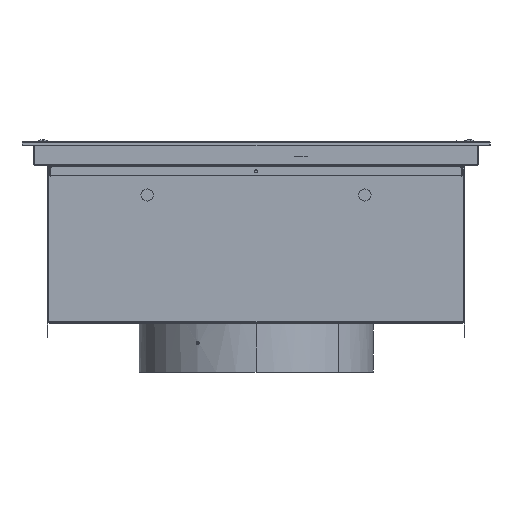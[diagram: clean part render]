
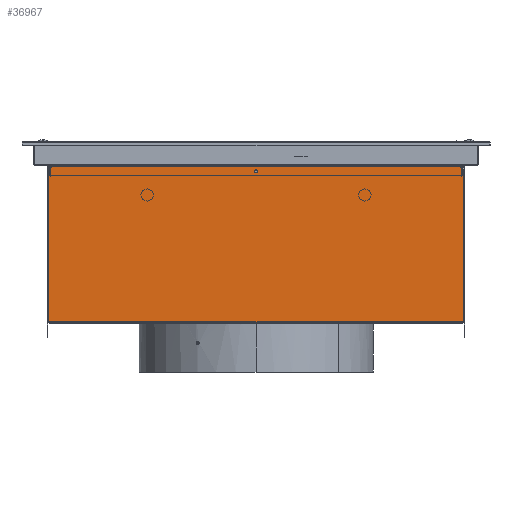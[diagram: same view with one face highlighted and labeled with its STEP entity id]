
A CAD part, left-side view. The second image highlights one B-rep face of the part: STEP entity #36967.
In plain terms, the highlighted planar face has unit normal (-1, 0, 0).
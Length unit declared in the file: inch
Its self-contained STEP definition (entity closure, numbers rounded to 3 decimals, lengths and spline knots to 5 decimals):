
#1712 = LINE ( 'NONE', #22037, #48766 ) ;
#1896 = CIRCLE ( 'NONE', #24910, 0.015 ) ;
#2207 = LINE ( 'NONE', #6310, #39869 ) ;
#2336 = FACE_OUTER_BOUND ( 'NONE', #14563, .T. ) ;
#2477 = VECTOR ( 'NONE', #42718, 39.37008 ) ;
#2786 = ORIENTED_EDGE ( 'NONE', *, *, #32716, .T. ) ;
#3860 = DIRECTION ( 'NONE',  ( 0., -1., 0. ) ) ;
#4125 = DIRECTION ( 'NONE',  ( 1., 0., 0. ) ) ;
#4232 = EDGE_CURVE ( 'NONE', #23449, #41630, #46624, .T. ) ;
#5059 = AXIS2_PLACEMENT_3D ( 'NONE', #27204, #15392, #14857 ) ;
#6310 = CARTESIAN_POINT ( 'NONE',  ( -10.56225, -0.075, -1.5796 ) ) ;
#7031 = AXIS2_PLACEMENT_3D ( 'NONE', #7735, #27319, #46881 ) ;
#7071 = CIRCLE ( 'NONE', #46517, 0.075 ) ;
#7735 = CARTESIAN_POINT ( 'NONE',  ( -10.56225, 0., -1.091 ) ) ;
#8916 = VERTEX_POINT ( 'NONE', #26608 ) ;
#9068 = EDGE_CURVE ( 'NONE', #33599, #21982, #29170, .T. ) ;
#9140 = EDGE_CURVE ( 'NONE', #22191, #41630, #16105, .T. ) ;
#9278 = EDGE_CURVE ( 'NONE', #49000, #10778, #7071, .T. ) ;
#10051 = CARTESIAN_POINT ( 'NONE',  ( -10.56225, -10.52225, -9.137 ) ) ;
#10315 = FACE_BOUND ( 'NONE', #46376, .T. ) ;
#10542 = CARTESIAN_POINT ( 'NONE',  ( -10.56225, -10.51786, -1.44861 ) ) ;
#10778 = VERTEX_POINT ( 'NONE', #49237 ) ;
#11020 = VECTOR ( 'NONE', #3860, 39.37008 ) ;
#11243 = AXIS2_PLACEMENT_3D ( 'NONE', #28960, #40810, #33752 ) ;
#11606 = EDGE_CURVE ( 'NONE', #23449, #33599, #47006, .T. ) ;
#11730 = VERTEX_POINT ( 'NONE', #50381 ) ;
#12247 = CARTESIAN_POINT ( 'NONE',  ( -10.56225, 0.015, -1.203 ) ) ;
#12311 = VERTEX_POINT ( 'NONE', #10542 ) ;
#12585 = DIRECTION ( 'NONE',  ( 0., 1., 0. ) ) ;
#12903 = VERTEX_POINT ( 'NONE', #50662 ) ;
#13627 = VERTEX_POINT ( 'NONE', #26849 ) ;
#14051 = DIRECTION ( 'NONE',  ( 0., 0., -1. ) ) ;
#14306 = CARTESIAN_POINT ( 'NONE',  ( -10.56225, -10.50725, -1.45921 ) ) ;
#14563 = EDGE_LOOP ( 'NONE', ( #18804, #42535, #20952, #22978, #49764, #39685, #32574, #38050, #23955, #19294, #2786, #15159, #35303 ) ) ;
#14857 = DIRECTION ( 'NONE',  ( 0., 0., -1. ) ) ;
#15159 = ORIENTED_EDGE ( 'NONE', *, *, #43726, .T. ) ;
#15392 = DIRECTION ( 'NONE',  ( -1., 0., 0. ) ) ;
#15529 = CARTESIAN_POINT ( 'NONE',  ( -10.56225, -10.52225, -9.137 ) ) ;
#15685 = CARTESIAN_POINT ( 'NONE',  ( -10.56225, -10.52225, -1.453 ) ) ;
#15776 = DIRECTION ( 'NONE',  ( 0., 0., 1. ) ) ;
#16105 = CIRCLE ( 'NONE', #7031, 0.113 ) ;
#16452 = CARTESIAN_POINT ( 'NONE',  ( -10.56225, 10.56225, -9.137 ) ) ;
#16482 = DIRECTION ( 'NONE',  ( 0., -1., 0. ) ) ;
#16493 = CARTESIAN_POINT ( 'NONE',  ( -10.56225, 0., -1.5046 ) ) ;
#16766 = LINE ( 'NONE', #25487, #22469 ) ;
#16787 = ORIENTED_EDGE ( 'NONE', *, *, #48821, .T. ) ;
#17265 = DIRECTION ( 'NONE',  ( 0., 0., 1. ) ) ;
#17825 = CARTESIAN_POINT ( 'NONE',  ( -10.56225, 10.27225, -1.203 ) ) ;
#18682 = CARTESIAN_POINT ( 'NONE',  ( -10.56225, 10.50725, -1.45921 ) ) ;
#18804 = ORIENTED_EDGE ( 'NONE', *, *, #18877, .F. ) ;
#18877 = EDGE_CURVE ( 'NONE', #12903, #43430, #41970, .T. ) ;
#19294 = ORIENTED_EDGE ( 'NONE', *, *, #26531, .T. ) ;
#19628 = LINE ( 'NONE', #15529, #39798 ) ;
#20711 = PLANE ( 'NONE',  #11243 ) ;
#20952 = ORIENTED_EDGE ( 'NONE', *, *, #9140, .T. ) ;
#21045 = DIRECTION ( 'NONE',  ( 0., 1., 0. ) ) ;
#21118 = VECTOR ( 'NONE', #32690, 39.37008 ) ;
#21387 = CARTESIAN_POINT ( 'NONE',  ( -10.56225, 10.26604, -1.203 ) ) ;
#21982 = VERTEX_POINT ( 'NONE', #36090 ) ;
#22037 = CARTESIAN_POINT ( 'NONE',  ( -10.56225, 0.075, -1.5796 ) ) ;
#22067 = DIRECTION ( 'NONE',  ( 0., 0., -1. ) ) ;
#22191 = VERTEX_POINT ( 'NONE', #37095 ) ;
#22469 = VECTOR ( 'NONE', #17265, 39.37008 ) ;
#22978 = ORIENTED_EDGE ( 'NONE', *, *, #4232, .F. ) ;
#23336 = VERTEX_POINT ( 'NONE', #29133 ) ;
#23449 = VERTEX_POINT ( 'NONE', #21387 ) ;
#23955 = ORIENTED_EDGE ( 'NONE', *, *, #28552, .F. ) ;
#24322 = DIRECTION ( 'NONE',  ( -1., 0., 0. ) ) ;
#24910 = AXIS2_PLACEMENT_3D ( 'NONE', #14306, #50089, #14051 ) ;
#25487 = CARTESIAN_POINT ( 'NONE',  ( -10.56225, 10.52225, -9.137 ) ) ;
#26344 = EDGE_CURVE ( 'NONE', #23336, #43430, #30757, .T. ) ;
#26531 = EDGE_CURVE ( 'NONE', #42209, #13627, #19628, .T. ) ;
#26608 = CARTESIAN_POINT ( 'NONE',  ( -10.56225, 0.075, -1.5796 ) ) ;
#26849 = CARTESIAN_POINT ( 'NONE',  ( -10.56225, -10.52225, -1.45921 ) ) ;
#27048 = CARTESIAN_POINT ( 'NONE',  ( -10.56225, 10.56225, -1.203 ) ) ;
#27159 = CIRCLE ( 'NONE', #50158, 0.113 ) ;
#27204 = CARTESIAN_POINT ( 'NONE',  ( -10.56225, 10.26604, -1.218 ) ) ;
#27319 = DIRECTION ( 'NONE',  ( 1., 0., 0. ) ) ;
#28346 = CARTESIAN_POINT ( 'NONE',  ( -10.56225, -0.075, -1.5796 ) ) ;
#28552 = EDGE_CURVE ( 'NONE', #42209, #11730, #32163, .T. ) ;
#28944 = EDGE_CURVE ( 'NONE', #10778, #50579, #2207, .T. ) ;
#28960 = CARTESIAN_POINT ( 'NONE',  ( -10.56225, 0., 0. ) ) ;
#29133 = CARTESIAN_POINT ( 'NONE',  ( -10.56225, -10.27664, -1.20739 ) ) ;
#29170 = LINE ( 'NONE', #17825, #30872 ) ;
#30029 = CARTESIAN_POINT ( 'NONE',  ( -10.56225, 0.075, -1.5046 ) ) ;
#30757 = CIRCLE ( 'NONE', #47194, 0.015 ) ;
#30872 = VECTOR ( 'NONE', #41243, 39.37008 ) ;
#31146 = LINE ( 'NONE', #15685, #2477 ) ;
#31246 = VERTEX_POINT ( 'NONE', #36278 ) ;
#32163 = LINE ( 'NONE', #16452, #37366 ) ;
#32203 = EDGE_CURVE ( 'NONE', #8916, #49000, #37278, .T. ) ;
#32574 = ORIENTED_EDGE ( 'NONE', *, *, #32693, .T. ) ;
#32690 = DIRECTION ( 'NONE',  ( 0., 0., 1. ) ) ;
#32693 = EDGE_CURVE ( 'NONE', #21982, #31246, #33951, .T. ) ;
#32716 = EDGE_CURVE ( 'NONE', #13627, #12311, #1896, .T. ) ;
#33161 = DIRECTION ( 'NONE',  ( 1., 0., 0. ) ) ;
#33171 = CARTESIAN_POINT ( 'NONE',  ( -10.56225, 0.075, -1.5046 ) ) ;
#33198 = ORIENTED_EDGE ( 'NONE', *, *, #32203, .T. ) ;
#33599 = VERTEX_POINT ( 'NONE', #37955 ) ;
#33607 = CARTESIAN_POINT ( 'NONE',  ( -10.56225, -10.26604, -1.203 ) ) ;
#33752 = DIRECTION ( 'NONE',  ( 0., 0., -1. ) ) ;
#33951 = CIRCLE ( 'NONE', #34793, 0.015 ) ;
#34793 = AXIS2_PLACEMENT_3D ( 'NONE', #18682, #42628, #42368 ) ;
#35039 = CARTESIAN_POINT ( 'NONE',  ( -10.56225, 10.56225, -1.203 ) ) ;
#35303 = ORIENTED_EDGE ( 'NONE', *, *, #26344, .T. ) ;
#35316 = DIRECTION ( 'NONE',  ( 0., 0., -1. ) ) ;
#36090 = CARTESIAN_POINT ( 'NONE',  ( -10.56225, 10.51786, -1.44861 ) ) ;
#36278 = CARTESIAN_POINT ( 'NONE',  ( -10.56225, 10.52225, -1.45921 ) ) ;
#36937 = ORIENTED_EDGE ( 'NONE', *, *, #28944, .T. ) ;
#36967 = ADVANCED_FACE ( 'Face1', ( #10315, #2336 ), #20711, .F. ) ;
#37095 = CARTESIAN_POINT ( 'NONE',  ( -10.56225, 0., -1.204 ) ) ;
#37113 = ORIENTED_EDGE ( 'NONE', *, *, #9278, .T. ) ;
#37278 = LINE ( 'NONE', #33171, #21118 ) ;
#37366 = VECTOR ( 'NONE', #12585, 39.37008 ) ;
#37814 = VECTOR ( 'NONE', #16482, 39.37008 ) ;
#37955 = CARTESIAN_POINT ( 'NONE',  ( -10.56225, 10.27664, -1.20739 ) ) ;
#38050 = ORIENTED_EDGE ( 'NONE', *, *, #39932, .F. ) ;
#38659 = DIRECTION ( 'NONE',  ( 0., 0., -1. ) ) ;
#39685 = ORIENTED_EDGE ( 'NONE', *, *, #9068, .T. ) ;
#39798 = VECTOR ( 'NONE', #15776, 39.37008 ) ;
#39869 = VECTOR ( 'NONE', #38659, 39.37008 ) ;
#39932 = EDGE_CURVE ( 'NONE', #11730, #31246, #16766, .T. ) ;
#40281 = DIRECTION ( 'NONE',  ( 0., 0., -1. ) ) ;
#40810 = DIRECTION ( 'NONE',  ( 1., 0., 0. ) ) ;
#41243 = DIRECTION ( 'NONE',  ( 0., 0.707, -0.707 ) ) ;
#41630 = VERTEX_POINT ( 'NONE', #12247 ) ;
#41970 = LINE ( 'NONE', #35039, #11020 ) ;
#42209 = VERTEX_POINT ( 'NONE', #10051 ) ;
#42368 = DIRECTION ( 'NONE',  ( 0., 0., -1. ) ) ;
#42535 = ORIENTED_EDGE ( 'NONE', *, *, #43959, .T. ) ;
#42628 = DIRECTION ( 'NONE',  ( -1., 0., 0. ) ) ;
#42718 = DIRECTION ( 'NONE',  ( 0., 0.707, 0.707 ) ) ;
#43430 = VERTEX_POINT ( 'NONE', #33607 ) ;
#43726 = EDGE_CURVE ( 'NONE', #12311, #23336, #31146, .T. ) ;
#43959 = EDGE_CURVE ( 'NONE', #12903, #22191, #27159, .T. ) ;
#46376 = EDGE_LOOP ( 'NONE', ( #33198, #37113, #36937, #16787 ) ) ;
#46517 = AXIS2_PLACEMENT_3D ( 'NONE', #16493, #4125, #35316 ) ;
#46624 = LINE ( 'NONE', #27048, #37814 ) ;
#46881 = DIRECTION ( 'NONE',  ( 0., 0., -1. ) ) ;
#47006 = CIRCLE ( 'NONE', #5059, 0.015 ) ;
#47194 = AXIS2_PLACEMENT_3D ( 'NONE', #48003, #24322, #40281 ) ;
#48003 = CARTESIAN_POINT ( 'NONE',  ( -10.56225, -10.26604, -1.218 ) ) ;
#48766 = VECTOR ( 'NONE', #21045, 39.37008 ) ;
#48821 = EDGE_CURVE ( 'NONE', #50579, #8916, #1712, .T. ) ;
#49000 = VERTEX_POINT ( 'NONE', #30029 ) ;
#49123 = CARTESIAN_POINT ( 'NONE',  ( -10.56225, 0., -1.091 ) ) ;
#49237 = CARTESIAN_POINT ( 'NONE',  ( -10.56225, -0.075, -1.5046 ) ) ;
#49764 = ORIENTED_EDGE ( 'NONE', *, *, #11606, .T. ) ;
#50089 = DIRECTION ( 'NONE',  ( -1., 0., 0. ) ) ;
#50158 = AXIS2_PLACEMENT_3D ( 'NONE', #49123, #33161, #22067 ) ;
#50381 = CARTESIAN_POINT ( 'NONE',  ( -10.56225, 10.52225, -9.137 ) ) ;
#50579 = VERTEX_POINT ( 'NONE', #28346 ) ;
#50662 = CARTESIAN_POINT ( 'NONE',  ( -10.56225, -0.015, -1.203 ) ) ;
